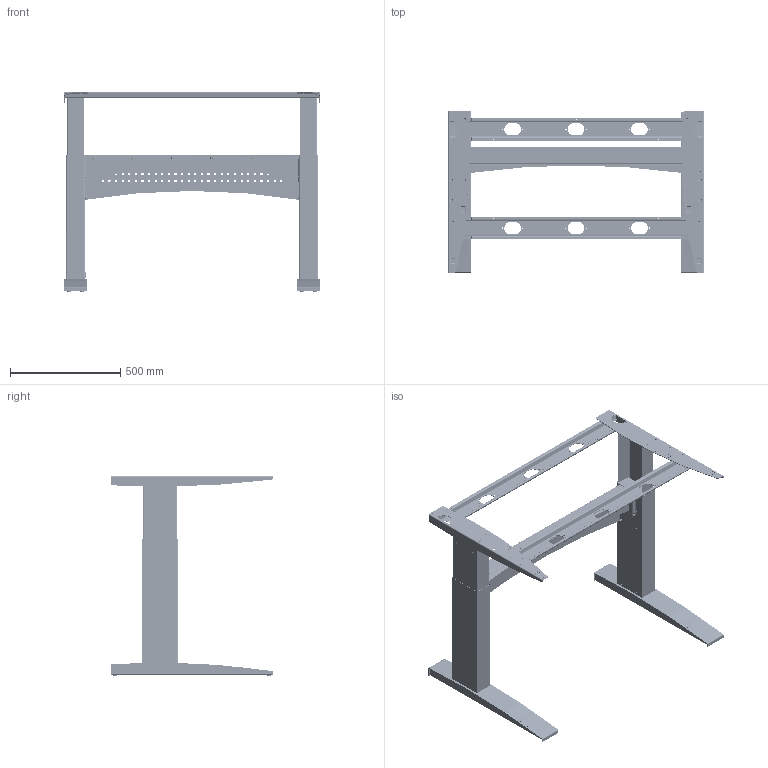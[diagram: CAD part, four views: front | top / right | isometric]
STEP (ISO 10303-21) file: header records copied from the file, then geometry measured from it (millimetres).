
FILE_DESCRIPTION (( 'STEP AP203' ), '1' );
FILE_NAME ('Tech-draw_501-11_XX116.STEP', '2019-09-24T11:31:24', ( '' ), ( '' ), 'SwSTEP 2.0', 'SolidWorks 2018', '' );
FILE_SCHEMA (( 'CONFIG_CONTROL_DESIGN' ));
Length unit declared in the file: millimetre
Products named in the file (46): 303590_silver; 103320_silver; 303510; 149570_501-11 XS116; 103360_silver; 303470; 103670_silver2; 104100_wo wire; 303710_silver; 304640; 304300_116; 103410_silver; 304130; 303930_zinc; 103490_silver; 103390_silver; 103400_silver; 305660_silver; 103990_silver; 303530; 103370_silver; 103350_silver; 303700; 303540; 303580_silver; 305680_zinc; 303550; 303520; 303940_silver; 104000_silver; 103340_silver; 345830; 300600; 103470_silver; 103700_silver; 304650_zinc; Tech-draw_501-11_XX116; 103680_silver2; 103690_silver; 103380_silver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
Assembly tree (107 placements, depth 8):
  Tech-draw_501-11_XX116
    149570_501-11 XS116
      103680_silver2  x2
        103670_silver2
          304300_116
          304130  x8
        300600
      104000_silver
        103990_silver
          103390_silver
            103350_silver
              103320_silver
                303540
                303550
              303720_silver
              303590_silver
          103410_silver
            103370_silver
              303530
              303520
              Weld_09  x2
            303930_zinc  x6
        304650_silver  x6
        303470  x4
        303560_silver
        303430_silver
        305680_zinc  x2
        104100_wo wire
          304640
      103490_silver
        103470_silver
          103380_silver
            103340_silver
              103320_silver
                303540
                303550
                345830  x2
              303580_silver
              303590_silver
          103400_silver
            103360_silver
              303530
              303510
              Weld_09  x4
            303930_zinc  x2
        303940_silver
        304650_zinc  x6
        303470  x4
        305660_silver
        305680_zinc  x2
      103700_silver
        103690_silver
          303700
          304130  x6
        304650_zinc  x6
      303710_silver
Bounding box: 1162.45 x 732.3 x 905.5 mm (x, y, z)
Volume: 4092967.4 mm3; surface area: 5266245 mm2
Topology: 101 solids, 101 shells, 4283 faces, 11363 edges, 7403 vertices
Faces by surface type: plane 2128, cylinder 1642, bspline 252, torus 175, cone 78, sphere 8
Full cylindrical faces by diameter (mm): 1.5 x3, 3.2 x4, 3.3 x4, 4 x60, 4.2 x4, 4.5 x20, 5 x38, 6 x406, 6.2 x24, 6.5 x2, 6.8 x4, 7 x56, 8 x16, 9 x22, 10 x12, 13 x6, 27.6 x1, 28 x2, 30 x1
Entity records: 93301 total; most frequent: CARTESIAN_POINT 24622, DIRECTION 13096, ORIENTED_EDGE 12450, EDGE_CURVE 6225, AXIS2_PLACEMENT_3D 4498, VERTEX_POINT 4147, VECTOR 4100, LINE 4100
